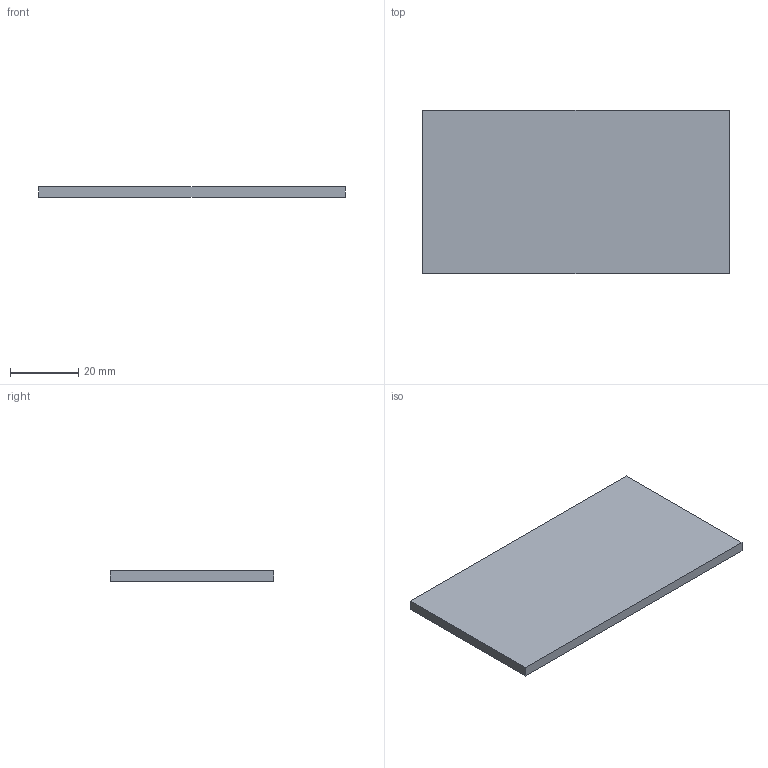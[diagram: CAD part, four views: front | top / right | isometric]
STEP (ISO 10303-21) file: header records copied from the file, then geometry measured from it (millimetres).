
FILE_DESCRIPTION(('Open CASCADE Model'),'2;1');
FILE_NAME('Open CASCADE Shape Model','2026-10-04T01:02:27',('Author'),( 'Open CASCADE'),'Open CASCADE STEP processor 8.0','Open CASCADE 8.0' ,'Unknown');
FILE_SCHEMA(('AUTOMOTIVE_DESIGN { 1 0 10303 214 1 1 1 1 }'));
Length unit declared in the file: millimetre
Products named in the file (1): Open CASCADE STEP translator 8.0 114
Bounding box: 90 x 48 x 3 mm (x, y, z)
Volume: 12960 mm3; surface area: 9468 mm2
Topology: 1 solids, 1 shells, 6 faces, 12 edges, 8 vertices
Faces by surface type: plane 6
Entity records: 322 total; most frequent: CARTESIAN_POINT 51, DIRECTION 50, LINE 36, VECTOR 36, ORIENTED_EDGE 24, PCURVE 24, DEFINITIONAL_REPRESENTATION 24, EDGE_CURVE 12
